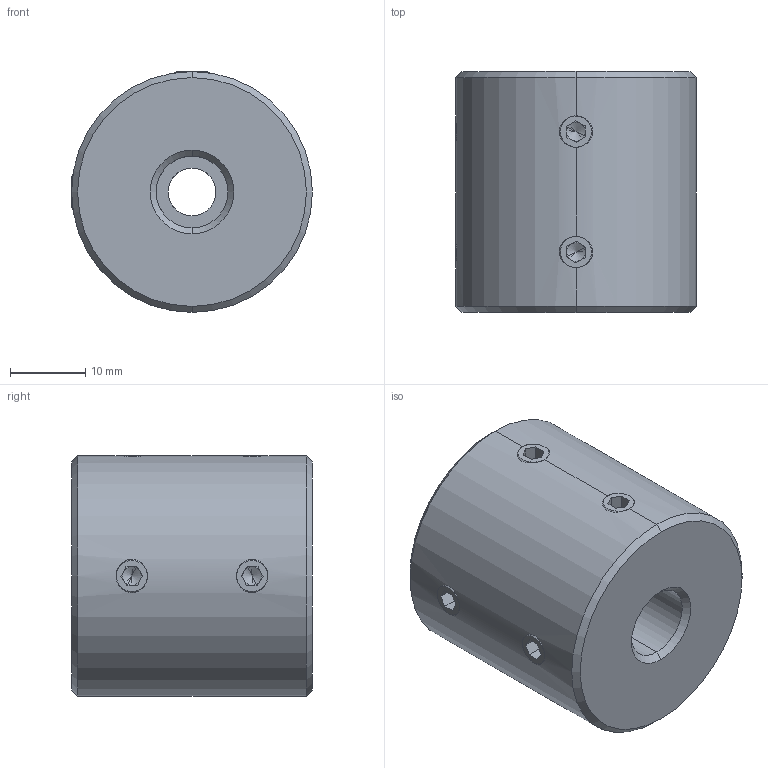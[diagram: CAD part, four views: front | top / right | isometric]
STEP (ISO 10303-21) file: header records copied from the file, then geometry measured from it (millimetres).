
FILE_DESCRIPTION (( 'STEP AP214' ), '1' );
FILE_NAME ('LL-D-D32L32-6.35-9.525½¨Ä£.STEP', '2022-07-22T11:21:34', ( '' ), ( '' ), 'SwSTEP 2.0', 'SolidWorks 2022', '' );
FILE_SCHEMA (( 'AUTOMOTIVE_DESIGN' ));
Length unit declared in the file: millimetre
Products named in the file (1): LL-D-D32L32-6.35-9.525膘耀
Bounding box: 32 x 32 x 32 mm (x, y, z)
Volume: 23727.9 mm3; surface area: 5769 mm2
Topology: 1 solids, 1 shells, 113 faces, 286 edges, 176 vertices
Faces by surface type: plane 59, cone 32, cylinder 22
Entity records: 3742 total; most frequent: CARTESIAN_POINT 1032, DIRECTION 558, ORIENTED_EDGE 556, EDGE_CURVE 278, AXIS2_PLACEMENT_3D 206, VERTEX_POINT 176, LINE 146, VECTOR 146
